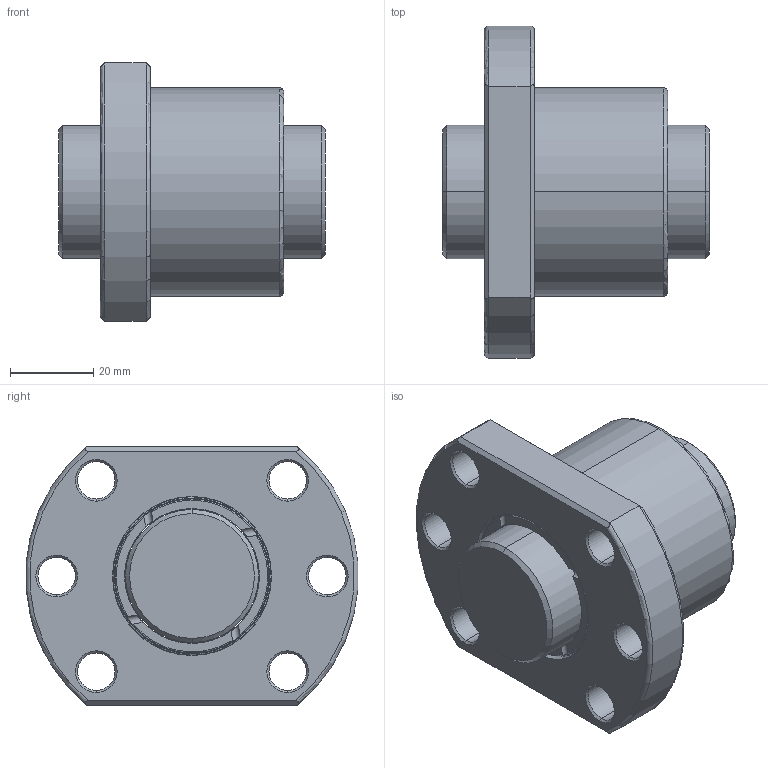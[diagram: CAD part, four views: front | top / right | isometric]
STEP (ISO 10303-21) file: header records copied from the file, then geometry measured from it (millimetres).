
FILE_DESCRIPTION (( 'STEP AP203' ), '1' );
FILE_NAME ('SFUR03204T4D-C.STEP', '2020-06-16T07:31:29', ( '' ), ( '' ), 'SwSTEP 2.0', 'SolidWorks 2013', '' );
FILE_SCHEMA (( 'CONFIG_CONTROL_DESIGN' ));
Length unit declared in the file: millimetre
Products named in the file (1): SFUR03204T4D-C
Bounding box: 64 x 79.74 x 62 mm (x, y, z)
Volume: 122990.4 mm3; surface area: 32238.8 mm2
Topology: 2 solids, 2 shells, 122 faces, 329 edges, 214 vertices
Faces by surface type: cylinder 54, plane 26, bspline 20, cone 16, torus 6
Entity records: 5441 total; most frequent: CARTESIAN_POINT 2416, ORIENTED_EDGE 656, DIRECTION 582, EDGE_CURVE 328, AXIS2_PLACEMENT_3D 249, VERTEX_POINT 214, CIRCLE 146, EDGE_LOOP 144
